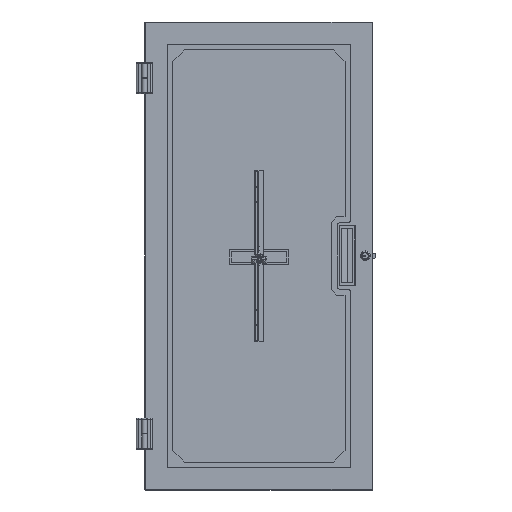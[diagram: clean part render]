
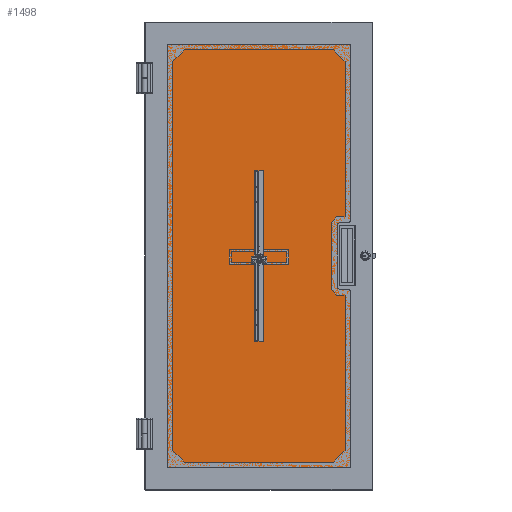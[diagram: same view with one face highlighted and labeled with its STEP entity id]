
A CAD part, front view. The second image highlights one B-rep face of the part: STEP entity #1498.
In plain terms, the highlighted planar face has unit normal (0, -1, 0).
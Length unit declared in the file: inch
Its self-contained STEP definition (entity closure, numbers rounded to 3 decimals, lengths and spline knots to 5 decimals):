
#1498 = ADVANCED_FACE( '', ( #3599 ), #3600, .T. );
#3599 = FACE_OUTER_BOUND( '', #6540, .T. );
#3600 = PLANE( '', #6541 );
#6540 = EDGE_LOOP( '', ( #10874, #10875, #10876, #10877, #10878, #10879, #10880, #10881, #10882, #10883, #10884, #10885 ) );
#6541 = AXIS2_PLACEMENT_3D( '', #10886, #10887, #10888 );
#10874 = ORIENTED_EDGE( '', *, *, #17014, .T. );
#10875 = ORIENTED_EDGE( '', *, *, #17015, .T. );
#10876 = ORIENTED_EDGE( '', *, *, #17016, .T. );
#10877 = ORIENTED_EDGE( '', *, *, #17017, .T. );
#10878 = ORIENTED_EDGE( '', *, *, #17018, .T. );
#10879 = ORIENTED_EDGE( '', *, *, #17019, .T. );
#10880 = ORIENTED_EDGE( '', *, *, #17020, .T. );
#10881 = ORIENTED_EDGE( '', *, *, #16400, .T. );
#10882 = ORIENTED_EDGE( '', *, *, #17021, .T. );
#10883 = ORIENTED_EDGE( '', *, *, #17022, .T. );
#10884 = ORIENTED_EDGE( '', *, *, #17023, .T. );
#10885 = ORIENTED_EDGE( '', *, *, #17024, .T. );
#10886 = CARTESIAN_POINT( '', ( 7.9375, 0., -3.21875 ) );
#10887 = DIRECTION( '', ( 0., -1., 0. ) );
#10888 = DIRECTION( '', ( 0., 0., -1. ) );
#16400 = EDGE_CURVE( '', #19545, #19546, #19547, .T. );
#17014 = EDGE_CURVE( '', #20527, #20528, #20529, .T. );
#17015 = EDGE_CURVE( '', #20528, #20530, #20531, .T. );
#17016 = EDGE_CURVE( '', #20530, #20532, #20533, .T. );
#17017 = EDGE_CURVE( '', #20532, #20534, #20535, .T. );
#17018 = EDGE_CURVE( '', #20534, #20536, #20537, .T. );
#17019 = EDGE_CURVE( '', #20536, #20538, #20539, .T. );
#17020 = EDGE_CURVE( '', #20538, #19545, #20540, .T. );
#17021 = EDGE_CURVE( '', #19546, #20541, #20542, .T. );
#17022 = EDGE_CURVE( '', #20541, #20543, #20544, .T. );
#17023 = EDGE_CURVE( '', #20543, #20545, #20546, .T. );
#17024 = EDGE_CURVE( '', #20545, #20527, #20547, .T. );
#19545 = VERTEX_POINT( '', #24234 );
#19546 = VERTEX_POINT( '', #24235 );
#19547 = CIRCLE( '', #24236, 0.25 );
#20527 = VERTEX_POINT( '', #25661 );
#20528 = VERTEX_POINT( '', #25662 );
#20529 = LINE( '', #25663, #25664 );
#20530 = VERTEX_POINT( '', #25665 );
#20531 = LINE( '', #25666, #25667 );
#20532 = VERTEX_POINT( '', #25668 );
#20533 = LINE( '', #25669, #25670 );
#20534 = VERTEX_POINT( '', #25671 );
#20535 = CIRCLE( '', #25672, 0.25 );
#20536 = VERTEX_POINT( '', #25673 );
#20537 = LINE( '', #25674, #25675 );
#20538 = VERTEX_POINT( '', #25676 );
#20539 = CIRCLE( '', #25677, 0.25 );
#20540 = LINE( '', #25678, #25679 );
#20541 = VERTEX_POINT( '', #25680 );
#20542 = LINE( '', #25681, #25682 );
#20543 = VERTEX_POINT( '', #25683 );
#20544 = CIRCLE( '', #25684, 0.25 );
#20545 = VERTEX_POINT( '', #25685 );
#20546 = LINE( '', #25686, #25687 );
#20547 = LINE( '', #25688, #25689 );
#24234 = CARTESIAN_POINT( '', ( 7., 0., 2.71875 ) );
#24235 = CARTESIAN_POINT( '', ( 7.25, 0., 2.96875 ) );
#24236 = AXIS2_PLACEMENT_3D( '', #29418, #29419, #29420 );
#25661 = CARTESIAN_POINT( '', ( -8.1875, 0., 18.9065 ) );
#25662 = CARTESIAN_POINT( '', ( -8.1875, 0., -18.9065 ) );
#25663 = CARTESIAN_POINT( '', ( -8.1875, 0., 18.9065 ) );
#25664 = VECTOR( '', #30240, 39.37008 );
#25665 = CARTESIAN_POINT( '', ( 8.1875, 0., -18.9065 ) );
#25666 = CARTESIAN_POINT( '', ( -8.1875, 0., -18.9065 ) );
#25667 = VECTOR( '', #30241, 39.37008 );
#25668 = CARTESIAN_POINT( '', ( 8.1875, 0., -3.21875 ) );
#25669 = CARTESIAN_POINT( '', ( 8.1875, 0., -18.9065 ) );
#25670 = VECTOR( '', #30242, 39.37008 );
#25671 = CARTESIAN_POINT( '', ( 7.9375, 0., -2.96875 ) );
#25672 = AXIS2_PLACEMENT_3D( '', #30243, #30244, #30245 );
#25673 = CARTESIAN_POINT( '', ( 7.25, 0., -2.96875 ) );
#25674 = CARTESIAN_POINT( '', ( 7.9375, 0., -2.96875 ) );
#25675 = VECTOR( '', #30246, 39.37008 );
#25676 = CARTESIAN_POINT( '', ( 7., 0., -2.71875 ) );
#25677 = AXIS2_PLACEMENT_3D( '', #30247, #30248, #30249 );
#25678 = CARTESIAN_POINT( '', ( 7., 0., 2.71875 ) );
#25679 = VECTOR( '', #30250, 39.37008 );
#25680 = CARTESIAN_POINT( '', ( 7.9375, 0., 2.96875 ) );
#25681 = CARTESIAN_POINT( '', ( 7.9375, 0., 2.96875 ) );
#25682 = VECTOR( '', #30251, 39.37008 );
#25683 = CARTESIAN_POINT( '', ( 8.1875, 0., 3.21875 ) );
#25684 = AXIS2_PLACEMENT_3D( '', #30252, #30253, #30254 );
#25685 = CARTESIAN_POINT( '', ( 8.1875, 0., 18.9065 ) );
#25686 = CARTESIAN_POINT( '', ( 8.1875, 0., 3.21875 ) );
#25687 = VECTOR( '', #30255, 39.37008 );
#25688 = CARTESIAN_POINT( '', ( 8.1875, 0., 18.9065 ) );
#25689 = VECTOR( '', #30256, 39.37008 );
#29418 = CARTESIAN_POINT( '', ( 7.25, 0., 2.71875 ) );
#29419 = DIRECTION( '', ( 0., 1., 0. ) );
#29420 = DIRECTION( '', ( 1., 0., 0. ) );
#30240 = DIRECTION( '', ( 0., 0., -1. ) );
#30241 = DIRECTION( '', ( 1., 0., 0. ) );
#30242 = DIRECTION( '', ( 0., 0., 1. ) );
#30243 = CARTESIAN_POINT( '', ( 7.9375, 0., -3.21875 ) );
#30244 = DIRECTION( '', ( 0., -1., 0. ) );
#30245 = DIRECTION( '', ( -1., 0., 0. ) );
#30246 = DIRECTION( '', ( -1., 0., 0. ) );
#30247 = CARTESIAN_POINT( '', ( 7.25, 0., -2.71875 ) );
#30248 = DIRECTION( '', ( 0., 1., 0. ) );
#30249 = DIRECTION( '', ( 1., 0., 0. ) );
#30250 = DIRECTION( '', ( 0., 0., 1. ) );
#30251 = DIRECTION( '', ( 1., 0., 0. ) );
#30252 = CARTESIAN_POINT( '', ( 7.9375, 0., 3.21875 ) );
#30253 = DIRECTION( '', ( 0., -1., 0. ) );
#30254 = DIRECTION( '', ( -1., 0., 0. ) );
#30255 = DIRECTION( '', ( 0., 0., 1. ) );
#30256 = DIRECTION( '', ( -1., 0., 0. ) );
